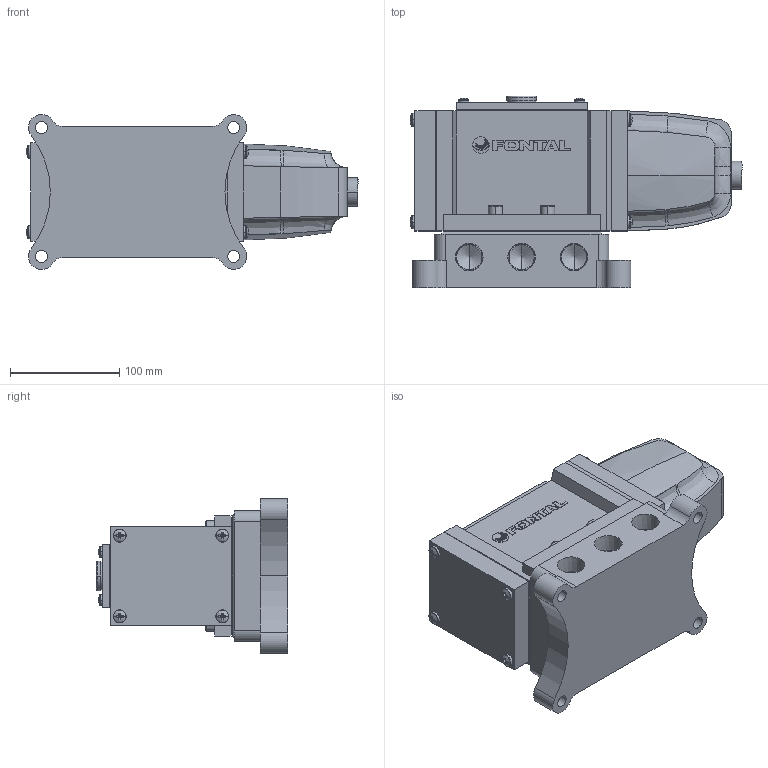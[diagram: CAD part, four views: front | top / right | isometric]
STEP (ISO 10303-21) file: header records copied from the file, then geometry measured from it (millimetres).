
FILE_DESCRIPTION (( 'STEP AP203' ), '1' );
FILE_NAME ('AS2425-06-##.STEP', '2016-03-09T05:12:08', ( 'Sam Lin' ), ( '' ), 'SwSTEP 2.0', 'SolidWorks 2013', '' );
FILE_SCHEMA (( 'CONFIG_CONTROL_DESIGN' ));
Length unit declared in the file: metre
Products named in the file (14): AS2310-4; AS2425-4; AS2425-1; AS2425-5; A25-MARK-2415; AS2425-6; AS2425-2; ISO 4762 M8 x 30; AS2425-3; ISO 7045 - M5 x 16; AS2325-2; AS2425-06-##; AS2325-3; ISO 7045 - M6 x 20
Assembly tree (26 placements, depth 2):
  AS2425-06-##
    AS2425-1
    A25-MARK-2415
    AS2425-2
    AS2425-3
    AS2325-2
    AS2325-3
    ISO 7045 - M6 x 20  x8
    AS2310-4
    AS2425-4
    AS2425-5
    AS2425-6
    ISO 4762 M8 x 30  x4
    ISO 7045 - M5 x 16  x4
Bounding box: 304.18 x 175.5 x 142 mm (x, y, z)
Volume: 3421125.1 mm3; surface area: 365722.4 mm2
Topology: 32 solids, 32 shells, 835 faces, 2085 edges, 1306 vertices
Faces by surface type: plane 436, cylinder 171, cone 108, bspline 104, torus 16
Entity records: 16767 total; most frequent: CARTESIAN_POINT 5183, ORIENTED_EDGE 2046, DIRECTION 1962, EDGE_CURVE 1023, AXIS2_PLACEMENT_3D 699, VERTEX_POINT 665, LINE 564, VECTOR 564
